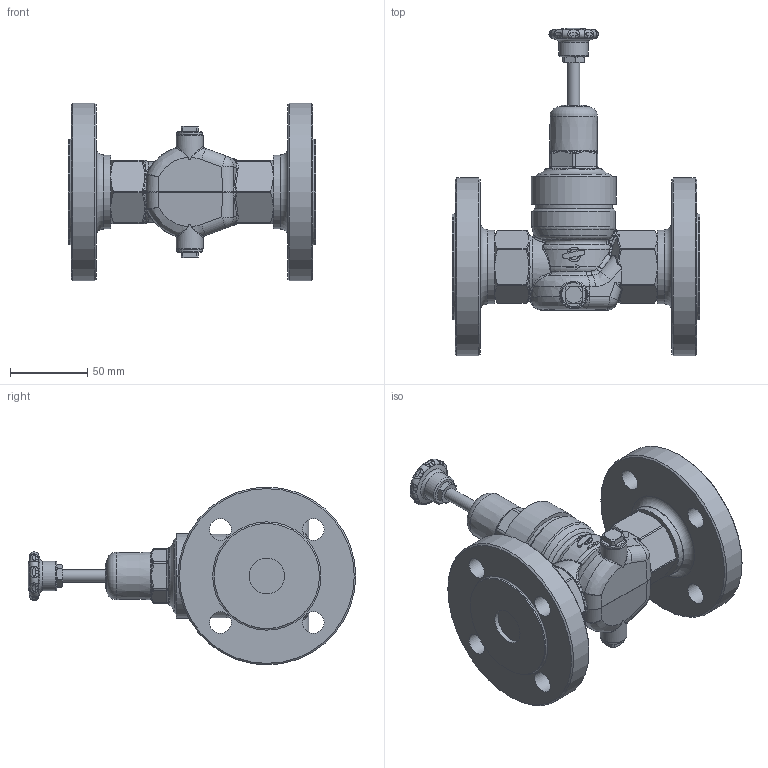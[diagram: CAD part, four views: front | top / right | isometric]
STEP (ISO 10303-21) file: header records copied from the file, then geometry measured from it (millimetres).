
FILE_DESCRIPTION(/* description */ (''),/* implementation_level */ '2;1');
FILE_NAME(/* name */ 'U:/AirCom-Produktdokumentation/Druckregler/RWF/Zeichnungen/CAD-Aircom/3D/B-RWF-08G.step',/* time_stamp */ '2022-07-04T16:00:31+02:00',/* author */ (''),/* organization */ (''),/* preprocessor_version */ 'ST-DEVELOPER v19',/* originating_system */ 'Autodesk Translation Framework v11.7.0.108',/* authorisation */ '');
FILE_SCHEMA (('AUTOMOTIVE_DESIGN { 1 0 10303 214 3 1 1 }'));
Products named in the file (1): 052404_step
Bounding box: 160 x 211.8 x 115 mm (x, y, z)
Volume: 688900.9 mm3; surface area: 91798.3 mm2
Topology: 1 solids, 2 shells, 699 faces, 1701 edges, 1035 vertices
Faces by surface type: bspline 300, plane 161, cylinder 130, cone 65, torus 29, sphere 14
Full cylindrical faces by diameter (mm): 3 x1, 6 x1, 6.1 x1, 7 x1, 8 x1, 14 x8, 16.5 x2, 17.4 x2, 19 x1, 23 x2, 47.5 x2, 50 x2, 54 x1, 55 x1, 68 x2, 115 x2
Entity records: 47660 total; most frequent: CARTESIAN_POINT 32214, ORIENTED_EDGE 3388, DIRECTION 2547, EDGE_CURVE 1694, AXIS2_PLACEMENT_3D 1070, VERTEX_POINT 1035, EDGE_LOOP 753, FACE_OUTER_BOUND 699
